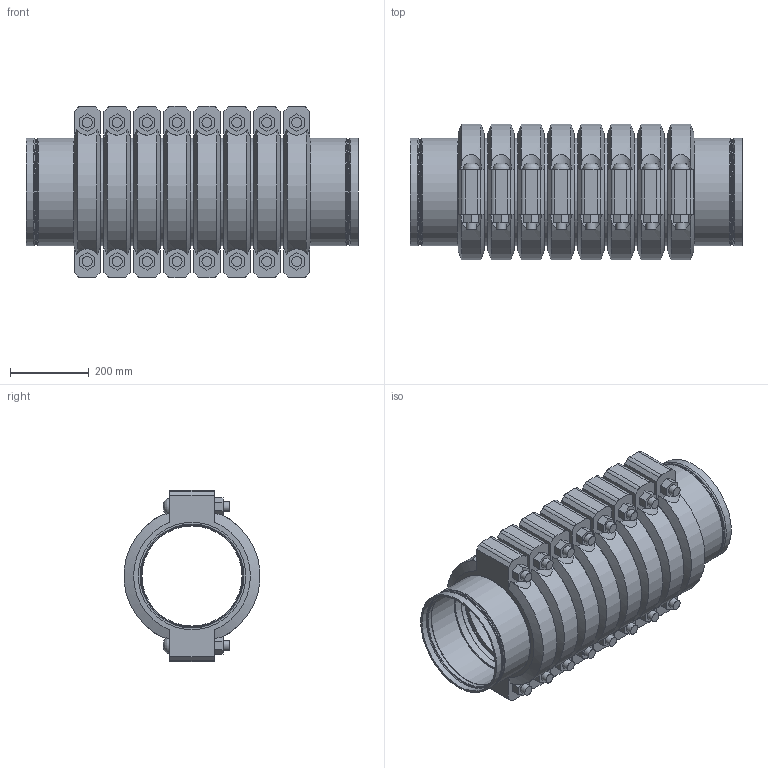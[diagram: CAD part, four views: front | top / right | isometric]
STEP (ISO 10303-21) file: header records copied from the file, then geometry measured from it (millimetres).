
FILE_DESCRIPTION(/* description */ ('VIC STRENGTHIN 100 EXPANSION JOINT 8 COUPLINGS EXPANDED STYLE E155 (ST1)','CAx-IF Rec.Pracs.---Representation and Presentation of Product Manufacturing Information (PMI)---4.0---2014-10-13'),/* implementation_level */ '2;1');
FILE_NAME(/* name */ 'C:\Users\Vjadhav\AppData\Roaming\Autodesk\ApplicationPlugins\Victaulic.Temp\A374\Victaulic_SS-StrengThin 100_Expansion Joint_Expanded_8 Couplings_Style E155 (ST1)_10 (250).stp',/* time_stamp */ '2021-07-23T19:34:50+05:00',/* author */ ('kkamble'),/* organization */ ('Victaulic'),/* preprocessor_version */ 'ST-DEVELOPER v17.2',/* originating_system */ 'Autodesk Inventor 2019',/* authorisation */ '');
FILE_SCHEMA (('AP242_MANAGED_MODEL_BASED_3D_ENGINEERING_MIM_LF { 1 0 10303 442 1 1 4 }'));
Length unit declared in the file: inch
Products named in the file (4): E155-10.0; E494G-10.0; Nipple-10.0; 077-10.0
Assembly tree (17 placements, depth 2):
  E155-10.0
    E494G-10.0  x2
    Nipple-10.0  x7
    077-10.0  x8
Bounding box: 843.79 x 344.9 x 435.1 mm (x, y, z)
Volume: 28144083.3 mm3; surface area: 3766948.5 mm2
Topology: 17 solids, 33 shells, 642 faces, 1600 edges, 1126 vertices
Faces by surface type: plane 344, cylinder 214, cone 36, torus 32, bspline 16
Full cylindrical faces by diameter (mm): 25.4 x32, 27.432 x16, 254.508 x7, 255.626 x2, 258.724 x2, 263.5 x6, 264.16 x8, 265.176 x2, 268.275 x16, 273.05 x43
Entity records: 4121 total; most frequent: CARTESIAN_POINT 852, DIRECTION 699, ORIENTED_EDGE 580, AXIS2_PLACEMENT_3D 302, EDGE_CURVE 290, VERTEX_POINT 209, CIRCLE 175, EDGE_LOOP 135
